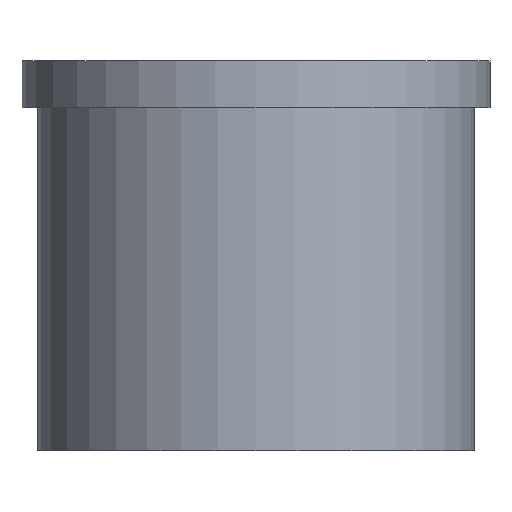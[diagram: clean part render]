
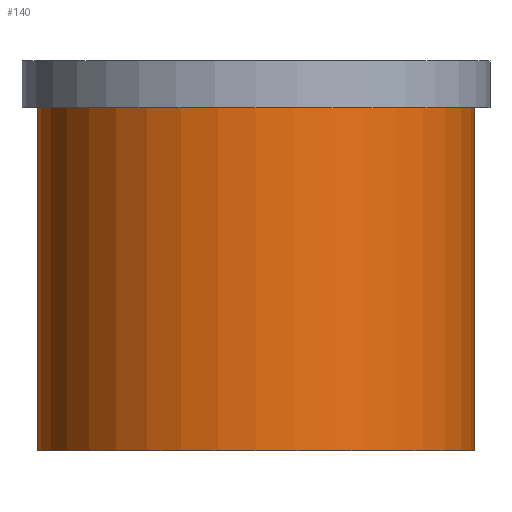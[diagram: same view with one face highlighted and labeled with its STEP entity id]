
A CAD part, front view. The second image highlights one B-rep face of the part: STEP entity #140.
In plain terms, the highlighted cylindrical face has radius 14 mm (diameter 28 mm), a partial arc.
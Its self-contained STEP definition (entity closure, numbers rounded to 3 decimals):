
#101=CYLINDRICAL_SURFACE('',#313,14.);
#107=LINE('',#441,#113);
#108=LINE('',#442,#114);
#113=VECTOR('',#383,1.);
#114=VECTOR('',#384,1.);
#127=FACE_OUTER_BOUND('',#165,.T.);
#140=ADVANCED_FACE('',(#127),#101,.T.);
#165=EDGE_LOOP('',(#211,#212,#213,#214));
#211=ORIENTED_EDGE('',*,*,#259,.T.);
#212=ORIENTED_EDGE('',*,*,#236,.F.);
#213=ORIENTED_EDGE('',*,*,#260,.F.);
#214=ORIENTED_EDGE('',*,*,#257,.T.);
#219=VERTEX_POINT('',#391);
#220=VERTEX_POINT('',#392);
#233=VERTEX_POINT('',#437);
#234=VERTEX_POINT('',#438);
#236=EDGE_CURVE('',#220,#219,#262,.T.);
#257=EDGE_CURVE('',#233,#234,#279,.T.);
#259=EDGE_CURVE('',#234,#219,#107,.T.);
#260=EDGE_CURVE('',#233,#220,#108,.T.);
#262=CIRCLE('',#283,14.);
#279=CIRCLE('',#310,14.);
#283=AXIS2_PLACEMENT_3D('',#393,#319,#320);
#310=AXIS2_PLACEMENT_3D('',#436,#377,#378);
#313=AXIS2_PLACEMENT_3D('',#443,#385,#386);
#319=DIRECTION('',(0.,0.,-1.));
#320=DIRECTION('',(0.,1.,0.));
#377=DIRECTION('',(0.,0.,-1.));
#378=DIRECTION('',(0.,1.,0.));
#383=DIRECTION('',(0.,0.,-1.));
#384=DIRECTION('',(0.,0.,-1.));
#385=DIRECTION('',(0.,0.,-1.));
#386=DIRECTION('',(0.,-1.,0.));
#391=CARTESIAN_POINT('',(-14.,0.,-22.));
#392=CARTESIAN_POINT('',(14.,0.,-22.));
#393=CARTESIAN_POINT('',(0.,0.,-22.));
#436=CARTESIAN_POINT('',(0.,0.,0.));
#437=CARTESIAN_POINT('',(14.,0.,0.));
#438=CARTESIAN_POINT('',(-14.,0.,0.));
#441=CARTESIAN_POINT('',(-14.,0.,-22.));
#442=CARTESIAN_POINT('',(14.,0.,-22.));
#443=CARTESIAN_POINT('',(0.,0.,0.));
